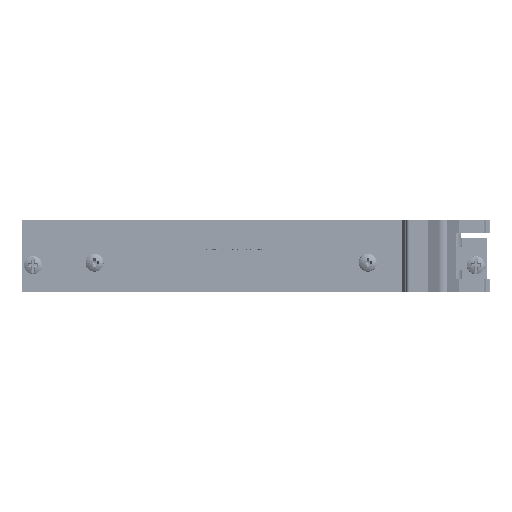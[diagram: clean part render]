
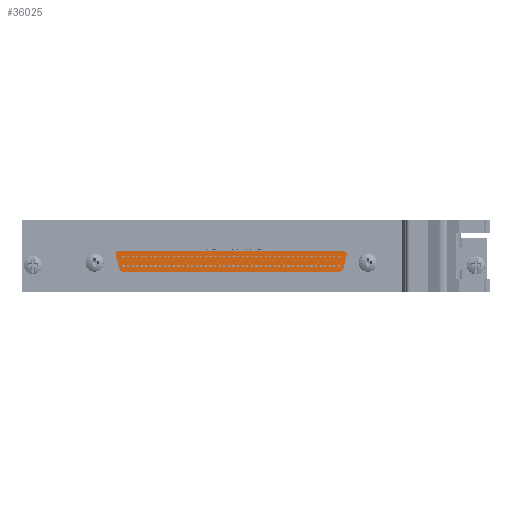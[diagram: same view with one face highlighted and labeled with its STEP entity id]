
A CAD part, left-side view. The second image highlights one B-rep face of the part: STEP entity #36025.
In plain terms, the highlighted planar face has unit normal (-1, 0, 0).
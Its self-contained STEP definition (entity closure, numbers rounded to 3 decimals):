
#5626 = VERTEX_POINT ( 'NONE', #241775 ) ;
#8296 = LINE ( 'NONE', #49122, #346229 ) ;
#14000 = EDGE_LOOP ( 'NONE', ( #125377, #408605, #132335, #19500, #275333, #452918, #56087, #23171, #307292 ) ) ;
#16064 = EDGE_CURVE ( 'NONE', #461577, #228183, #154018, .T. ) ;
#19500 = ORIENTED_EDGE ( 'NONE', *, *, #393601, .T. ) ;
#23171 = ORIENTED_EDGE ( 'NONE', *, *, #45558, .T. ) ;
#36025 = ADVANCED_FACE ( 'NONE', ( #408778 ), #189928, .T. ) ;
#45558 = EDGE_CURVE ( 'NONE', #47949, #116201, #226167, .T. ) ;
#45876 = CARTESIAN_POINT ( 'NONE',  ( 5.966, 7.688, -30.036 ) ) ;
#46165 = CIRCLE ( 'NONE', #107689, 1. ) ;
#47550 = CARTESIAN_POINT ( 'NONE',  ( 5.966, 7.688, 32.024 ) ) ;
#47949 = VERTEX_POINT ( 'NONE', #281127 ) ;
#48215 = CARTESIAN_POINT ( 'NONE',  ( 5.966, 8.688, -30.036 ) ) ;
#49122 = CARTESIAN_POINT ( 'NONE',  ( 5.966, 7.429, 32.99 ) ) ;
#49958 = DIRECTION ( 'NONE',  ( -1., 0., 0. ) ) ;
#56087 = ORIENTED_EDGE ( 'NONE', *, *, #351060, .T. ) ;
#63633 = DIRECTION ( 'NONE',  ( 0., 0., 1. ) ) ;
#74203 = CARTESIAN_POINT ( 'NONE',  ( 5.966, 3.729, 31.998 ) ) ;
#83939 = VERTEX_POINT ( 'NONE', #48215 ) ;
#84392 = VECTOR ( 'NONE', #400979, 1000. ) ;
#86252 = VERTEX_POINT ( 'NONE', #403971 ) ;
#92280 = VERTEX_POINT ( 'NONE', #273239 ) ;
#99538 = DIRECTION ( 'NONE',  ( -1., 0., 0. ) ) ;
#107689 = AXIS2_PLACEMENT_3D ( 'NONE', #138724, #239970, #355352 ) ;
#116201 = VERTEX_POINT ( 'NONE', #74203 ) ;
#118474 = VECTOR ( 'NONE', #123960, 1000. ) ;
#123960 = DIRECTION ( 'NONE',  ( 0., -0.966, 0.259 ) ) ;
#125377 = ORIENTED_EDGE ( 'NONE', *, *, #234546, .T. ) ;
#132335 = ORIENTED_EDGE ( 'NONE', *, *, #315109, .T. ) ;
#138724 = CARTESIAN_POINT ( 'NONE',  ( 5.966, 7.688, 32.024 ) ) ;
#154018 = CIRCLE ( 'NONE', #469337, 1. ) ;
#155418 = LINE ( 'NONE', #372135, #118474 ) ;
#161753 = EDGE_CURVE ( 'NONE', #196721, #5626, #46165, .T. ) ;
#177471 = EDGE_CURVE ( 'NONE', #116201, #86252, #8296, .T. ) ;
#189928 = PLANE ( 'NONE',  #467669 ) ;
#194646 = DIRECTION ( 'NONE',  ( 0., 0., 1. ) ) ;
#196721 = VERTEX_POINT ( 'NONE', #254026 ) ;
#223120 = AXIS2_PLACEMENT_3D ( 'NONE', #420357, #99538, #345877 ) ;
#226167 = CIRCLE ( 'NONE', #333595, 1. ) ;
#228183 = VERTEX_POINT ( 'NONE', #231575 ) ;
#231575 = CARTESIAN_POINT ( 'NONE',  ( 5.966, 2.988, -29.045 ) ) ;
#232399 = VECTOR ( 'NONE', #63633, 1000. ) ;
#234546 = EDGE_CURVE ( 'NONE', #86252, #196721, #292113, .T. ) ;
#239098 = DIRECTION ( 'NONE',  ( -1., 0., 0. ) ) ;
#239970 = DIRECTION ( 'NONE',  ( -1., 0., 0. ) ) ;
#241775 = CARTESIAN_POINT ( 'NONE',  ( 5.966, 8.688, 32.024 ) ) ;
#246724 = CARTESIAN_POINT ( 'NONE',  ( 5.966, 2.988, 31.032 ) ) ;
#254026 = CARTESIAN_POINT ( 'NONE',  ( 5.966, 7.688, 33.024 ) ) ;
#255074 = CARTESIAN_POINT ( 'NONE',  ( 5.966, 3.988, 31.032 ) ) ;
#260371 = DIRECTION ( 'NONE',  ( 0., 0., -1. ) ) ;
#263701 = CARTESIAN_POINT ( 'NONE',  ( 5.966, 3.729, -30.011 ) ) ;
#273239 = CARTESIAN_POINT ( 'NONE',  ( 5.966, 7.429, -31.002 ) ) ;
#275333 = ORIENTED_EDGE ( 'NONE', *, *, #353528, .T. ) ;
#277526 = DIRECTION ( 'NONE',  ( -1., 0., 0. ) ) ;
#281127 = CARTESIAN_POINT ( 'NONE',  ( 5.966, 2.988, 31.032 ) ) ;
#292113 = CIRCLE ( 'NONE', #223120, 1. ) ;
#307292 = ORIENTED_EDGE ( 'NONE', *, *, #177471, .T. ) ;
#309195 = CIRCLE ( 'NONE', #370798, 1. ) ;
#315109 = EDGE_CURVE ( 'NONE', #5626, #83939, #405724, .T. ) ;
#316080 = CARTESIAN_POINT ( 'NONE',  ( 5.966, 3.988, -29.045 ) ) ;
#333595 = AXIS2_PLACEMENT_3D ( 'NONE', #255074, #277526, #401851 ) ;
#345877 = DIRECTION ( 'NONE',  ( 0., 0., 1. ) ) ;
#346229 = VECTOR ( 'NONE', #412664, 1000. ) ;
#351060 = EDGE_CURVE ( 'NONE', #228183, #47949, #422409, .T. ) ;
#353528 = EDGE_CURVE ( 'NONE', #92280, #461577, #155418, .T. ) ;
#355352 = DIRECTION ( 'NONE',  ( 0., 0., 1. ) ) ;
#367288 = CARTESIAN_POINT ( 'NONE',  ( 5.966, 8.688, -30.036 ) ) ;
#370798 = AXIS2_PLACEMENT_3D ( 'NONE', #45876, #407104, #260371 ) ;
#372135 = CARTESIAN_POINT ( 'NONE',  ( 5.966, 7.429, -31.002 ) ) ;
#385847 = DIRECTION ( 'NONE',  ( 0., 0., -1. ) ) ;
#393601 = EDGE_CURVE ( 'NONE', #83939, #92280, #309195, .T. ) ;
#400979 = DIRECTION ( 'NONE',  ( 0., 0., -1. ) ) ;
#401851 = DIRECTION ( 'NONE',  ( 0., 0., 1. ) ) ;
#403971 = CARTESIAN_POINT ( 'NONE',  ( 5.966, 7.429, 32.99 ) ) ;
#405724 = LINE ( 'NONE', #367288, #84392 ) ;
#407104 = DIRECTION ( 'NONE',  ( -1., 0., 0. ) ) ;
#408605 = ORIENTED_EDGE ( 'NONE', *, *, #161753, .T. ) ;
#408778 = FACE_OUTER_BOUND ( 'NONE', #14000, .T. ) ;
#412664 = DIRECTION ( 'NONE',  ( 0., 0.966, 0.259 ) ) ;
#420357 = CARTESIAN_POINT ( 'NONE',  ( 5.966, 7.688, 32.024 ) ) ;
#422409 = LINE ( 'NONE', #246724, #232399 ) ;
#452918 = ORIENTED_EDGE ( 'NONE', *, *, #16064, .T. ) ;
#461577 = VERTEX_POINT ( 'NONE', #263701 ) ;
#467669 = AXIS2_PLACEMENT_3D ( 'NONE', #47550, #49958, #194646 ) ;
#469337 = AXIS2_PLACEMENT_3D ( 'NONE', #316080, #239098, #385847 ) ;
